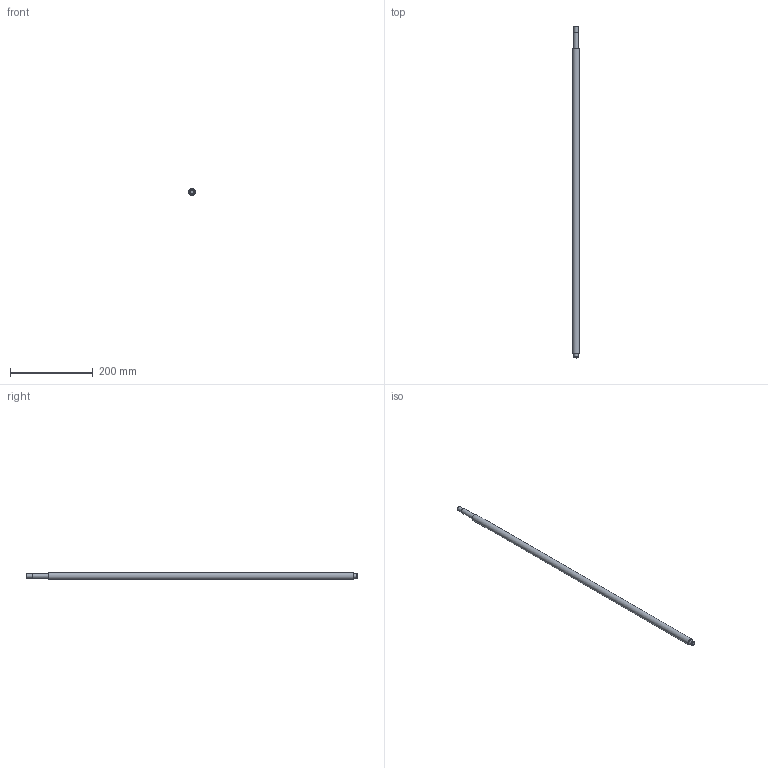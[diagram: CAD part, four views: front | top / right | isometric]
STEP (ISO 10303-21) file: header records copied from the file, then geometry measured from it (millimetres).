
FILE_DESCRIPTION(/* description */ (''),/* implementation_level */ '2;1');
FILE_NAME(/* name */ 'C:\Users\David\Desktop\stepFiles\Profilfuehrung\KUS1605x800.stp',/* time_stamp */ '2018-06-24T15:08:46+02:00',/* author */ ('David'),/* organization */ (''),/* preprocessor_version */ 'ST-DEVELOPER v17',/* originating_system */ 'Autodesk Inventor 2019',/* authorisation */ '');
FILE_SCHEMA (('AUTOMOTIVE_DESIGN { 1 0 10303 214 3 1 1 }'));
Length unit declared in the file: millimetre
Products named in the file (1): SFU1605xvariabel
Bounding box: 16 x 800 x 16 mm (x, y, z)
Volume: 154218.7 mm3; surface area: 39626.1 mm2
Topology: 1 solids, 1 shells, 15 faces, 34 edges, 26 vertices
Faces by surface type: plane 7, cylinder 6, cone 2
Full cylindrical faces by diameter (mm): 9.6 x1, 10 x3, 12 x1, 16 x1
Entity records: 493 total; most frequent: DIRECTION 92, CARTESIAN_POINT 76, ORIENTED_EDGE 68, AXIS2_PLACEMENT_3D 42, EDGE_CURVE 34, CIRCLE 26, VERTEX_POINT 26, EDGE_LOOP 20
